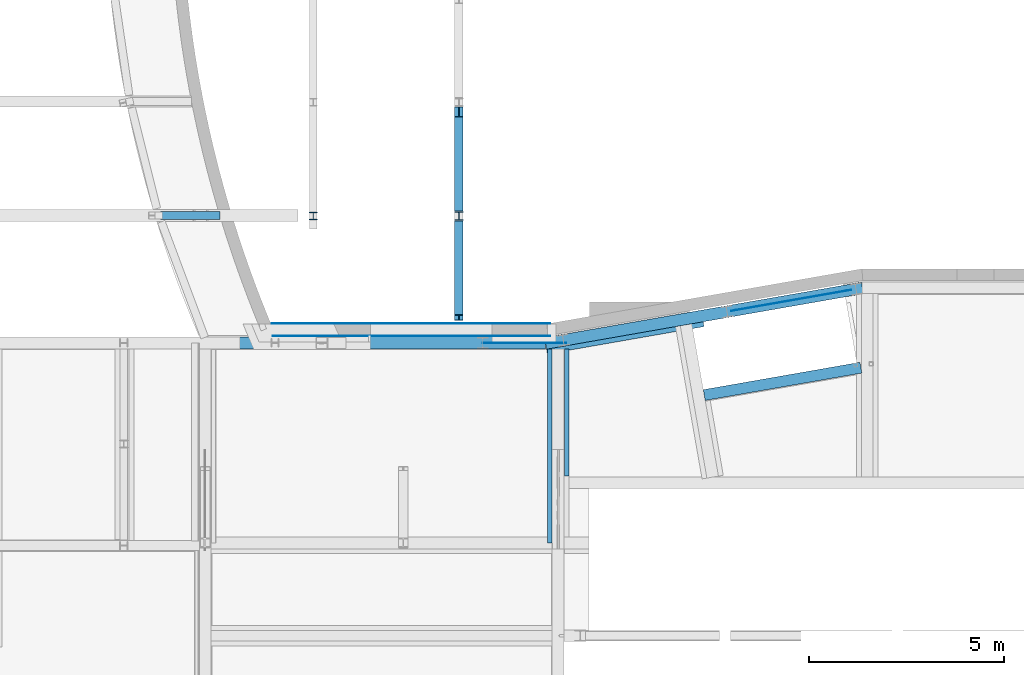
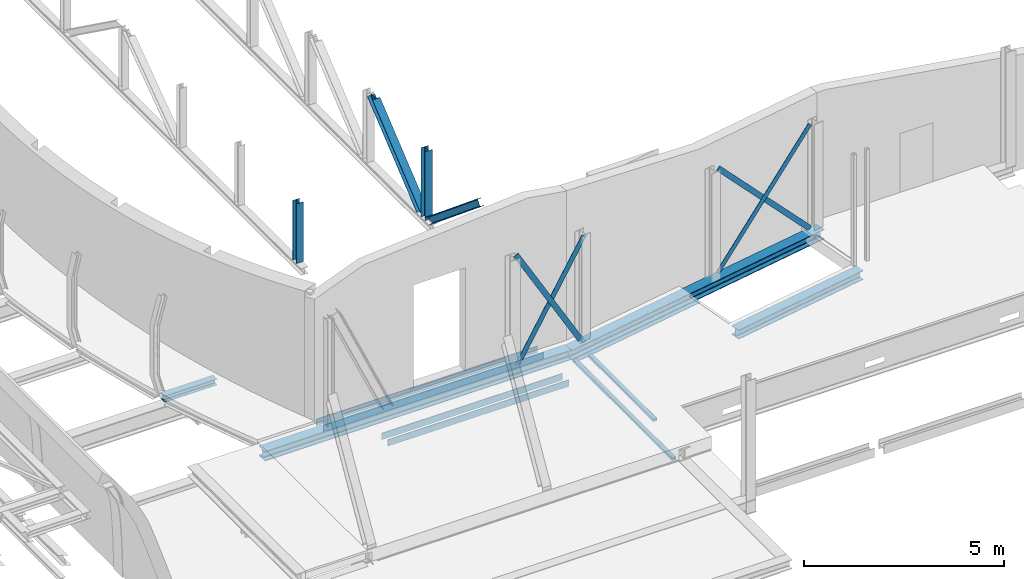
# One storey, part 19 of 38: 18 beams.
"""IFC2X3 building model written with IfcOpenShell, lengths in millimetres."""

from ifc_helpers import new_model, entity, si_unit, converted_unit, derived_unit, direction, frame, frame_2d, origin, place, context, subcontext, project, spatial, polyline, circle_curve, parameter, trimmed, segment, composite_curve, rectangle, i_section, outline, extrude, clip, halfspace, source, transform, mapped, material, material_list, type_object, type_shapes, element, save


model = new_model("IFC2X3")

# Units and contexts
model_context = context("Model", 3, precision=0.01, world=origin(), true_north=direction((6.12303176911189e-17, 1.0)))
body_context = subcontext(model_context, "Body", "Model", "MODEL_VIEW")
ifc_project = project(units=[si_unit("LENGTHUNIT", "METRE", prefix="MILLI"), si_unit("AREAUNIT", "SQUARE_METRE", prefix="MILLI"), si_unit("VOLUMEUNIT", "CUBIC_METRE"), converted_unit("PLANEANGLEUNIT", "DEGREE", entity("IfcRatioMeasure", 0.0174532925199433), si_unit("PLANEANGLEUNIT", "RADIAN"), dimensions=[0, 0, 0, 0, 0, 0, 0]), si_unit("MASSUNIT", "GRAM", prefix="KILO"), derived_unit("MASSDENSITYUNIT", [(si_unit("MASSUNIT", "GRAM", prefix="KILO"), 1), (si_unit("LENGTHUNIT", "METRE"), -3)]), derived_unit("MOMENTOFINERTIAUNIT", [(si_unit("LENGTHUNIT", "METRE"), 4)]), si_unit("TIMEUNIT", "SECOND"), si_unit("FREQUENCYUNIT", "HERTZ"), si_unit("THERMODYNAMICTEMPERATUREUNIT", "DEGREE_CELSIUS"), derived_unit("THERMALTRANSMITTANCEUNIT", [(si_unit("MASSUNIT", "GRAM", prefix="KILO"), 1), (si_unit("THERMODYNAMICTEMPERATUREUNIT", "KELVIN"), -1), (si_unit("TIMEUNIT", "SECOND"), -3)]), derived_unit("VOLUMETRICFLOWRATEUNIT", [(si_unit("LENGTHUNIT", "METRE"), 3), (si_unit("TIMEUNIT", "SECOND"), -1)]), si_unit("ELECTRICCURRENTUNIT", "AMPERE"), si_unit("ELECTRICVOLTAGEUNIT", "VOLT"), si_unit("POWERUNIT", "WATT"), si_unit("FORCEUNIT", "NEWTON", prefix="KILO"), si_unit("ILLUMINANCEUNIT", "LUX"), si_unit("LUMINOUSFLUXUNIT", "LUMEN"), si_unit("LUMINOUSINTENSITYUNIT", "CANDELA"), derived_unit("USERDEFINED", [(si_unit("MASSUNIT", "GRAM", prefix="KILO"), -1), (si_unit("LENGTHUNIT", "METRE"), -2), (si_unit("TIMEUNIT", "SECOND"), 3), (si_unit("LUMINOUSFLUXUNIT", "LUMEN"), 1)]), derived_unit("LINEARVELOCITYUNIT", [(si_unit("LENGTHUNIT", "METRE"), 1), (si_unit("TIMEUNIT", "SECOND"), -1)]), si_unit("PRESSUREUNIT", "PASCAL"), derived_unit("USERDEFINED", [(si_unit("LENGTHUNIT", "METRE"), -2), (si_unit("MASSUNIT", "GRAM", prefix="KILO"), 1), (si_unit("TIMEUNIT", "SECOND"), -2)]), derived_unit("LINEARFORCEUNIT", [(si_unit("MASSUNIT", "GRAM", prefix="KILO"), 1), (si_unit("LENGTHUNIT", "METRE"), 1), (si_unit("TIMEUNIT", "SECOND"), -2), (si_unit("LENGTHUNIT", "METRE"), -1)]), derived_unit("PLANARFORCEUNIT", [(si_unit("MASSUNIT", "GRAM", prefix="KILO"), 1), (si_unit("LENGTHUNIT", "METRE"), 1), (si_unit("TIMEUNIT", "SECOND"), -2), (si_unit("LENGTHUNIT", "METRE"), -2)])], contexts=[model_context])

# Site, building, storey
site_placement = place(None, origin())
site = spatial("IfcSite", under=ifc_project, at=site_placement, Name="Theater aan de Parade", CompositionType="ELEMENT")
building_placement = place(site_placement, origin())
building = spatial("IfcBuilding", under=site, at=building_placement, Name="Theater aan de Parade", CompositionType="ELEMENT")
storey_placement = place(building_placement, frame((0.0, 0.0, 12480.0)))
storey = spatial("IfcBuildingStorey", under=building, at=storey_placement, Name="03 derde verdieping", CompositionType="ELEMENT", Elevation=12480.0)

# Beams
ifc_material_1 = material(Name="00_PBT_MAT_staal_S355")
beam_type_1 = type_object("IfcBeamType", Name="28_PBT_SF_staal_H-profiel:S355_HE220B", PredefinedType="NOTDEFINED")
beam_1_placement = place(storey_placement, frame((49335.0, 20780.0, 5090.0), z_axis=(0.0, 0.636264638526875, 0.771470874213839), x_axis=(0.0, 0.771470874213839, -0.636264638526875)))
element("IfcBeam", 1, at=beam_1_placement, inside=storey, type_object=beam_type_1, material=ifc_material_1, Name="28_PBT_SF_staal_H-profiel:S355_HE220B", ObjectType="28_PBT_SF_staal_H-profiel:S355_HE220B", context=body_context, shape_type="Clipping", body=[
    clip(clip(clip(extrude(outline(composite_curve([segment(polyline([(-110.0, -94.0), (-110.0, -110.0)]), True, "CONTINUOUS"), segment(polyline([(-110.0, -110.0), (110.0, -110.0)]), True, "CONTINUOUS"), segment(polyline([(110.0, -110.0), (110.0, -94.0)]), True, "CONTINUOUS"), segment(polyline([(110.0, -94.0), (22.7500000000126, -94.0)]), True, "CONTINUOUS"), segment(trimmed(circle_curve(frame_2d((22.7500000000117, -76.0), x_axis=(-1.0, 0.0)), 17.999999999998), [parameter(0.0)], [parameter(90.0000000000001)], True, "PARAMETER"), False, "CONTINUOUS"), segment(polyline([(4.75000000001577, -76.0), (4.75000000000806, 76.0)]), True, "CONTINUOUS"), segment(trimmed(circle_curve(frame_2d((22.750000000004, 76.0), x_axis=(0.0, 1.0)), 17.9999999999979), [parameter(0.0)], [parameter(90.0000000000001)], True, "PARAMETER"), False, "CONTINUOUS"), segment(polyline([(22.7500000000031, 94.0), (110.0, 94.0)]), True, "CONTINUOUS"), segment(polyline([(110.0, 94.0), (110.0, 110.0)]), True, "CONTINUOUS"), segment(polyline([(110.0, 110.0), (-110.0, 110.0)]), True, "CONTINUOUS"), segment(polyline([(-110.0, 110.0), (-110.0, 94.0)]), True, "CONTINUOUS"), segment(polyline([(-110.0, 94.0), (-22.7499999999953, 94.0)]), True, "CONTINUOUS"), segment(trimmed(circle_curve(frame_2d((-22.7499999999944, 76.0), x_axis=(1.0, 0.0)), 17.9999999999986), [parameter(0.0)], [parameter(90.0000000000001)], True, "PARAMETER"), False, "CONTINUOUS"), segment(polyline([(-4.74999999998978, 76.0), (-4.74999999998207, -76.0)]), True, "CONTINUOUS"), segment(trimmed(circle_curve(frame_2d((-22.7499999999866, -76.0), x_axis=(0.0, -1.0)), 17.9999999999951), [parameter(0.0)], [parameter(90.0000000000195)], True, "PARAMETER"), False, "CONTINUOUS"), segment(polyline([(-22.7499999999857, -94.0), (-110.0, -94.0)]), True, "CONTINUOUS")], self_intersect=False)), frame((397.542691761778, 0.0, 0.0), z_axis=(-1.0, 0.0, 0.0), x_axis=(0.0, 1.0, 0.0)), (0.0, 0.0, -1.0), 3195.32442237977), halfspace(frame((3424.42763274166, -130.0, -118.161026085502), z_axis=(0.636264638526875, 0.0, -0.771470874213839), x_axis=(0.771470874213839, 0.0, 0.636264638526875)), False)), halfspace(frame((3610.23713877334, -130.0, -0.303021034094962), z_axis=(0.771470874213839, 0.0, 0.636264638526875), x_axis=(-0.636264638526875, 0.0, 0.771470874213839)), False)), halfspace(frame((108.895897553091, 170.0, -143.509489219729), z_axis=(-0.636264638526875, 0.0, 0.771470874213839), x_axis=(0.771470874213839, 0.0, 0.636264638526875)), False)),
])
beam_type_2 = type_object("IfcBeamType", Name="28_PBT_SF_staal_H-profiel (void):S355_HE300B", PredefinedType="NOTDEFINED")
beam_2_placement = place(storey_placement, frame((42694.9091634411, 20445.0, 0.0)))
element("IfcBeam", 2, at=beam_2_placement, inside=storey, type_object=beam_type_2, material=ifc_material_1, Name="28_PBT_SF_staal_H-profiel (void):S355_HE300B", ObjectType="28_PBT_SF_staal_H-profiel (void):S355_HE300B", context=body_context, shape_type="SweptSolid", body=[
    extrude(outline(composite_curve([segment(polyline([(131.0, -150.0), (150.0, -150.0)]), True, "CONTINUOUS"), segment(polyline([(150.0, -150.0), (150.0, 150.0)]), True, "CONTINUOUS"), segment(polyline([(150.0, 150.0), (131.0, 150.0)]), True, "CONTINUOUS"), segment(polyline([(131.0, 150.0), (131.0, 32.5000000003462)]), True, "CONTINUOUS"), segment(trimmed(circle_curve(frame_2d((104.0, 32.5000000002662), x_axis=(1.0, 0.0)), 26.9999999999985), [parameter(269.999999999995)], [parameter(0.0)], True, "PARAMETER"), False, "CONTINUOUS"), segment(polyline([(104.0, 5.50000000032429), (-104.0, 5.49999999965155)]), True, "CONTINUOUS"), segment(trimmed(circle_curve(frame_2d((-104.0, 32.4999999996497), x_axis=(0.0, -1.0)), 26.9999999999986), [parameter(269.999999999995)], [parameter(0.0)], True, "PARAMETER"), False, "CONTINUOUS"), segment(polyline([(-131.0, 32.4999999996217), (-131.0, 150.0)]), True, "CONTINUOUS"), segment(polyline([(-131.0, 150.0), (-150.0, 150.0)]), True, "CONTINUOUS"), segment(polyline([(-150.0, 150.0), (-150.0, -150.0)]), True, "CONTINUOUS"), segment(polyline([(-150.0, -150.0), (-131.0, -150.0)]), True, "CONTINUOUS"), segment(polyline([(-131.0, -150.0), (-131.0, -32.5000000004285)]), True, "CONTINUOUS"), segment(trimmed(circle_curve(frame_2d((-104.0, -32.5000000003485), x_axis=(-1.0, 0.0)), 26.9999999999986), [parameter(269.999999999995)], [parameter(0.0)], True, "PARAMETER"), False, "CONTINUOUS"), segment(polyline([(-104.0, -5.50000000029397), (104.0, -5.49999999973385)]), True, "CONTINUOUS"), segment(trimmed(circle_curve(frame_2d((104.0, -32.499999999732), x_axis=(0.0, 1.0)), 26.9999999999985), [parameter(269.999999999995)], [parameter(0.0)], True, "PARAMETER"), False, "CONTINUOUS"), segment(polyline([(131.0, -32.4999999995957), (131.0, -150.0)]), True, "CONTINUOUS")], self_intersect=False)), frame((0.0, 0.0, -110.0), z_axis=(1.0, 0.0, 0.0), x_axis=(0.0, 0.0, -1.0)), (0.0, 0.0, 1.0), 8849.55984125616),
])
ifc_material_2 = material(Name="00_PBT_MAT_Lucht")
ifc_material_list = material_list([ifc_material_2, ifc_material_1])
beam_type_3 = type_object("IfcBeamType", Name="28_PBT_SF_staal_H-profiel_met_ondergelaste_strip (void):S355_HE300B + ondergelaste strip", PredefinedType="BEAM", material=ifc_material_list)
shared_shape = source(origin(), body_context, "Body", "SweptSolid", [
    extrude(rectangle(XDim=15.0, YDim=420.0, at=frame_2d((-2.53130849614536e-14, 0.0), x_axis=(1.0, 0.0))), frame((-4112.59046725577, -65.0, -157.500000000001), z_axis=(1.0, 0.0, 0.0), x_axis=(0.0, 0.0, -1.0)), (0.0, 0.0, 1.0), 4066.18093451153),
    extrude(i_section(OverallWidth=300.0, OverallDepth=300.0, WebThickness=11.0, FlangeThickness=18.9999999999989, FilletRadius=27.0, at=frame_2d((-3.97903932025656e-13, -1.4210854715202e-14), x_axis=(0.0, 1.0))), frame((-4113.59046725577, 0.0, 0.0), z_axis=(1.0, 0.0, 0.0), x_axis=(0.0, 0.0, -1.0)), (0.0, 0.0, 1.0), 8227.18093451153),
])
type_shapes(beam_type_3, [shared_shape])
beam_3_placement = place(storey_placement, frame((55604.3861490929, 21141.1470188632, -115.0), z_axis=(0.0, 0.0, 1.0), x_axis=(0.985030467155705, 0.172380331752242, 0.0)))
element("IfcBeam", 3, at=beam_3_placement, inside=storey, type_object=beam_type_3, material=ifc_material_1, Name="28_PBT_SF_staal_H-profiel_met_ondergelaste_strip (void):S355_HE300B + ondergelaste strip", ObjectType="28_PBT_SF_staal_H-profiel_met_ondergelaste_strip (void):S355_HE300B + ondergelaste strip", context=body_context, shape_type="MappedRepresentation", body=[
    mapped(shared_shape, transform((0.0, 0.0, 0.0), scale=1.0)),
])
beam_type_4 = type_object("IfcBeamType", Name="28_PBT_SF_staal_H-profiel (void):S355_HE280B", PredefinedType="NOTDEFINED")
beam_4_placement = place(storey_placement, frame((55611.5357676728, 19110.3022667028, 0.0), z_axis=(0.0, 0.0, 1.0), x_axis=(0.985030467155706, 0.172380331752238, 0.0)))
element("IfcBeam", 4, at=beam_4_placement, inside=storey, type_object=beam_type_4, material=ifc_material_1, Name="28_PBT_SF_staal_H-profiel (void):S355_HE280B", ObjectType="28_PBT_SF_staal_H-profiel (void):S355_HE280B", context=body_context, shape_type="SweptSolid", body=[
    extrude(outline(composite_curve([segment(polyline([(122.0, -140.0), (140.0, -140.0)]), True, "CONTINUOUS"), segment(polyline([(140.0, -140.0), (140.0, 140.0)]), True, "CONTINUOUS"), segment(polyline([(140.0, 140.0), (122.0, 140.0)]), True, "CONTINUOUS"), segment(polyline([(122.0, 140.0), (122.0, 29.2499999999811)]), True, "CONTINUOUS"), segment(trimmed(circle_curve(frame_2d((98.0, 29.2499999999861), x_axis=(1.0, 0.0)), 24.0000000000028), [parameter(270.00000000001)], [parameter(0.0)], True, "PARAMETER"), False, "CONTINUOUS"), segment(polyline([(98.0, 5.24999999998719), (-98.0, 5.25000000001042)]), True, "CONTINUOUS"), segment(trimmed(circle_curve(frame_2d((-98.0, 29.2500000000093), x_axis=(0.0, -1.0)), 24.000000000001), [parameter(270.000000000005)], [parameter(0.0)], True, "PARAMETER"), False, "CONTINUOUS"), segment(polyline([(-122.0, 29.25000000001), (-122.0, 140.0)]), True, "CONTINUOUS"), segment(polyline([(-122.0, 140.0), (-140.0, 140.0)]), True, "CONTINUOUS"), segment(polyline([(-140.0, 140.0), (-140.0, -140.0)]), True, "CONTINUOUS"), segment(polyline([(-140.0, -140.0), (-122.0, -140.0)]), True, "CONTINUOUS"), segment(polyline([(-122.0, -140.0), (-122.0, -29.2499999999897)]), True, "CONTINUOUS"), segment(trimmed(circle_curve(frame_2d((-98.0, -29.2499999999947), x_axis=(-1.0, 0.0)), 23.9999999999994), [parameter(270.000000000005)], [parameter(0.0)], True, "PARAMETER"), False, "CONTINUOUS"), segment(polyline([(-98.0, -5.24999999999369), (98.0, -5.25000000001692)]), True, "CONTINUOUS"), segment(trimmed(circle_curve(frame_2d((98.0, -29.2500000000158), x_axis=(0.0, 1.0)), 23.9999999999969), [parameter(269.99999999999)], [parameter(0.0)], True, "PARAMETER"), False, "CONTINUOUS"), segment(polyline([(122.0, -29.2500000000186), (122.0, -140.0)]), True, "CONTINUOUS")], self_intersect=False)), frame((0.0, 0.0, -120.0), z_axis=(1.0, 0.0, 0.0), x_axis=(0.0, 0.0, -1.0)), (0.0, 0.0, 1.0), 4067.57909931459),
])
beam_type_5 = type_object("IfcBeamType", Name="28_PBT_SF_staal_H-profiel:S355_HE220A", PredefinedType="NOTDEFINED")
beam_5_placement = place(storey_placement, frame((49335.0, 23690.0, 2690.0), z_axis=(0.0, -0.636264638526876, 0.771470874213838), x_axis=(0.0, 0.771470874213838, 0.636264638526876)))
element("IfcBeam", 5, at=beam_5_placement, inside=storey, type_object=beam_type_5, material=ifc_material_1, Name="28_PBT_SF_staal_H-profiel:S355_HE220A", ObjectType="28_PBT_SF_staal_H-profiel:S355_HE220A", context=body_context, shape_type="Clipping", body=[
    clip(clip(clip(clip(extrude(outline(composite_curve([segment(polyline([(94.0, -110.0), (105.0, -110.0)]), True, "CONTINUOUS"), segment(polyline([(105.0, -110.0), (105.0, 110.0)]), True, "CONTINUOUS"), segment(polyline([(105.0, 110.0), (94.0, 110.0)]), True, "CONTINUOUS"), segment(polyline([(94.0, 110.0), (94.0, 21.4999999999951)]), True, "CONTINUOUS"), segment(trimmed(circle_curve(frame_2d((76.0, 21.4999999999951), x_axis=(1.0, 0.0)), 17.9999999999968), [parameter(269.999999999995)], [parameter(0.0)], True, "PARAMETER"), False, "CONTINUOUS"), segment(polyline([(76.0, 3.49999999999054), (-76.0, 3.49999999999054)]), True, "CONTINUOUS"), segment(trimmed(circle_curve(frame_2d((-76.0, 21.4999999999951), x_axis=(0.0, -1.0)), 17.9999999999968), [parameter(269.999999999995)], [parameter(0.0)], True, "PARAMETER"), False, "CONTINUOUS"), segment(polyline([(-94.0, 21.4999999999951), (-94.0, 110.0)]), True, "CONTINUOUS"), segment(polyline([(-94.0, 110.0), (-105.0, 110.0)]), True, "CONTINUOUS"), segment(polyline([(-105.0, 110.0), (-105.0, -110.0)]), True, "CONTINUOUS"), segment(polyline([(-105.0, -110.0), (-94.0, -110.0)]), True, "CONTINUOUS"), segment(polyline([(-94.0, -110.0), (-94.0, -21.5000000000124)]), True, "CONTINUOUS"), segment(trimmed(circle_curve(frame_2d((-76.0, -21.5000000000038), x_axis=(-1.0, 0.0)), 17.9999999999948), [parameter(269.999999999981)], [parameter(0.0)], True, "PARAMETER"), False, "CONTINUOUS"), segment(polyline([(-76.0, -3.50000000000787), (76.0, -3.50000000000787)]), True, "CONTINUOUS"), segment(trimmed(circle_curve(frame_2d((76.0, -21.5000000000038), x_axis=(0.0, 1.0)), 17.9999999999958), [parameter(269.999999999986)], [parameter(0.0)], True, "PARAMETER"), False, "CONTINUOUS"), segment(polyline([(94.0, -21.5000000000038), (94.0, -110.0)]), True, "CONTINUOUS")], self_intersect=False)), frame((179.148262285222, 0.0, 0.0), z_axis=(1.0, 0.0, 0.0), x_axis=(0.0, 0.0, -1.0)), (0.0, 0.0, 1.0), 3381.90561992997), halfspace(frame((-182.158937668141, -130.0, 318.743453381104), z_axis=(-0.636264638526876, 0.0, -0.771470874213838), x_axis=(0.771470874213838, 0.0, -0.636264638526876)), False)), halfspace(frame((161.778237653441, 130.0, -0.303021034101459), z_axis=(-0.771470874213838, 0.0, 0.636264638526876), x_axis=(0.636264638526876, 0.0, 0.771470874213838)), False)), halfspace(frame((2213.89076306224, -130.0, -1692.76695951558), z_axis=(0.771470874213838, 0.0, -0.636264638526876), x_axis=(0.636264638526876, 0.0, 0.771470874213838)), False)), halfspace(frame((-838.104483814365, 170.0, 3568.84017072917), z_axis=(0.636264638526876, 0.0, 0.771470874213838), x_axis=(0.771470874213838, 0.0, -0.636264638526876)), False)),
])
beam_6_placement = place(storey_placement, frame((49335.0, 23690.0, 2690.0), z_axis=(1.0, 0.0, 0.0), x_axis=(0.0, 0.0, 1.0)))
element("IfcBeam", 6, at=beam_6_placement, inside=storey, type_object=beam_type_5, material=ifc_material_1, Name="28_PBT_SF_staal_H-profiel:S355_HE220A", ObjectType="28_PBT_SF_staal_H-profiel:S355_HE220A", context=body_context, shape_type="SweptSolid", body=[
    extrude(i_section(OverallWidth=220.000000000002, OverallDepth=210.000000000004, WebThickness=6.99999999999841, FlangeThickness=10.9999999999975, FilletRadius=17.9999999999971, at=frame_2d((0.0, -4.33431068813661e-12), x_axis=(1.0, 0.0))), frame((122.700000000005, 0.0, 0.0), z_axis=(1.0, 0.0, 0.0), x_axis=(0.0, 0.0, -1.0)), (0.0, 0.0, 1.0), 2104.59999999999),
])
ifc_material_3 = material(Name="00_PBT_MAT_staal_S235")
beam_type_6 = type_object("IfcBeamType", Name="28_PBT_SF_staal_koker:S235_K80x120x6.3", PredefinedType="NOTDEFINED")
beam_7_placement = place(storey_placement, frame((51596.3051596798, 20295.0, 0.0), z_axis=(0.0, 0.0, 1.0), x_axis=(0.0, -1.0, 0.0)))
element("IfcBeam", 7, at=beam_7_placement, inside=storey, type_object=beam_type_6, material=ifc_material_3, Name="28_PBT_SF_staal_koker:S235_K80x120x6.3", ObjectType="28_PBT_SF_staal_koker:S235_K80x120x6.3", context=body_context, shape_type="SweptSolid", body=[
    extrude(outline(composite_curve([segment(polyline([(-30.5499999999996, -60.0), (30.5499999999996, -60.0)]), True, "CONTINUOUS"), segment(trimmed(circle_curve(frame_2d((30.5499999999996, -50.5500000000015), x_axis=(0.0, 1.0)), 9.45), [parameter(180.0)], [parameter(270.0)], True, "PARAMETER"), True, "CONTINUOUS"), segment(polyline([(40.0, -50.5500000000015), (40.0, 50.5500000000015)]), True, "CONTINUOUS"), segment(trimmed(circle_curve(frame_2d((30.5499999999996, 50.5500000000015), x_axis=(0.0, 1.0)), 9.45), [parameter(270.0)], [parameter(360.0)], True, "PARAMETER"), True, "CONTINUOUS"), segment(polyline([(30.5499999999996, 60.0), (-30.5499999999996, 60.0)]), True, "CONTINUOUS"), segment(trimmed(circle_curve(frame_2d((-30.5499999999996, 50.5500000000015), x_axis=(0.0, 1.0)), 9.45), [parameter(0.0)], [parameter(90.0000000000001)], True, "PARAMETER"), True, "CONTINUOUS"), segment(polyline([(-40.0, 50.5500000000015), (-40.0, -50.5500000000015)]), True, "CONTINUOUS"), segment(trimmed(circle_curve(frame_2d((-30.5499999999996, -50.5500000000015), x_axis=(0.0, 1.0)), 9.45), [parameter(90.0)], [parameter(180.0)], True, "PARAMETER"), True, "CONTINUOUS")], self_intersect=False), holes=[composite_curve([segment(polyline([(33.6999999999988, 47.3999999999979), (33.6999999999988, -47.3999999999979)]), True, "CONTINUOUS"), segment(trimmed(circle_curve(frame_2d((27.4000000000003, -47.3999999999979), x_axis=(0.0, 1.0)), 6.3), [parameter(180.0)], [parameter(270.0)], True, "PARAMETER"), False, "CONTINUOUS"), segment(polyline([(27.4000000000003, -53.6999999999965), (-27.4000000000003, -53.6999999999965)]), True, "CONTINUOUS"), segment(trimmed(circle_curve(frame_2d((-27.4000000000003, -47.3999999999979), x_axis=(0.0, 1.0)), 6.3), [parameter(90.0)], [parameter(180.0)], True, "PARAMETER"), False, "CONTINUOUS"), segment(polyline([(-33.700000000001, -47.3999999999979), (-33.700000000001, 47.3999999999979)]), True, "CONTINUOUS"), segment(trimmed(circle_curve(frame_2d((-27.4000000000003, 47.3999999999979), x_axis=(0.0, 1.0)), 6.3), [parameter(4.07110999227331e-13)], [parameter(90.0000000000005)], True, "PARAMETER"), False, "CONTINUOUS"), segment(polyline([(-27.4000000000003, 53.6999999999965), (27.4000000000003, 53.6999999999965)]), True, "CONTINUOUS"), segment(trimmed(circle_curve(frame_2d((27.4000000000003, 47.3999999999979), x_axis=(0.0, 1.0)), 6.3), [parameter(270.0)], [parameter(360.0)], True, "PARAMETER"), False, "CONTINUOUS")], self_intersect=False)]), frame((0.0, 60.0, -305.0), z_axis=(1.0, 0.0, 0.0), x_axis=(0.0, 0.0, 1.0)), (0.0, 0.0, 1.0), 4965.51588929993),
])
beam_8_placement = place(storey_placement, frame((52154.3051596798, 20295.0, 0.0), z_axis=(0.0, 0.0, 1.0), x_axis=(0.0, -1.0, 0.0)))
element("IfcBeam", 8, at=beam_8_placement, inside=storey, type_object=beam_type_6, material=ifc_material_3, Name="28_PBT_SF_staal_koker:S235_K80x120x6.3", ObjectType="28_PBT_SF_staal_koker:S235_K80x120x6.3", context=body_context, shape_type="SweptSolid", body=[
    extrude(outline(composite_curve([segment(trimmed(circle_curve(frame_2d((-50.5500000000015, -30.5499999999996), x_axis=(1.0, 0.0)), 9.45), [parameter(180.0)], [parameter(270.0)], True, "PARAMETER"), True, "CONTINUOUS"), segment(polyline([(-50.5500000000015, -40.0), (50.5500000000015, -40.0)]), True, "CONTINUOUS"), segment(trimmed(circle_curve(frame_2d((50.5500000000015, -30.5499999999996), x_axis=(1.0, 0.0)), 9.45), [parameter(270.0)], [parameter(0.0)], True, "PARAMETER"), True, "CONTINUOUS"), segment(polyline([(60.0, -30.5499999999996), (60.0, 30.5499999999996)]), True, "CONTINUOUS"), segment(trimmed(circle_curve(frame_2d((50.5500000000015, 30.5499999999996), x_axis=(1.0, 0.0)), 9.45), [parameter(3.56222124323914e-13)], [parameter(90.0000000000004)], True, "PARAMETER"), True, "CONTINUOUS"), segment(polyline([(50.5500000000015, 40.0), (-50.5500000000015, 40.0)]), True, "CONTINUOUS"), segment(trimmed(circle_curve(frame_2d((-50.5500000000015, 30.5499999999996), x_axis=(1.0, 0.0)), 9.45), [parameter(90.0000000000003)], [parameter(180.0)], True, "PARAMETER"), True, "CONTINUOUS"), segment(polyline([(-60.0, 30.5499999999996), (-60.0, -30.5499999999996)]), True, "CONTINUOUS")], self_intersect=False), holes=[composite_curve([segment(trimmed(circle_curve(frame_2d((47.3999999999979, 27.4000000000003), x_axis=(1.0, 0.0)), 6.3), [parameter(5.08888749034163e-14)], [parameter(90.0000000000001)], True, "PARAMETER"), False, "CONTINUOUS"), segment(polyline([(53.6999999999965, 27.4000000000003), (53.6999999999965, -27.4000000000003)]), True, "CONTINUOUS"), segment(trimmed(circle_curve(frame_2d((47.3999999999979, -27.4000000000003), x_axis=(1.0, 0.0)), 6.3), [parameter(269.999999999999)], [parameter(360.0)], True, "PARAMETER"), False, "CONTINUOUS"), segment(polyline([(47.3999999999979, -33.700000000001), (-47.3999999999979, -33.700000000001)]), True, "CONTINUOUS"), segment(trimmed(circle_curve(frame_2d((-47.3999999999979, -27.4000000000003), x_axis=(1.0, 0.0)), 6.3), [parameter(180.0)], [parameter(270.0)], True, "PARAMETER"), False, "CONTINUOUS"), segment(polyline([(-53.6999999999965, -27.4000000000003), (-53.6999999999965, 27.4000000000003)]), True, "CONTINUOUS"), segment(trimmed(circle_curve(frame_2d((-47.3999999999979, 27.4000000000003), x_axis=(1.0, 0.0)), 6.3), [parameter(89.9999999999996)], [parameter(180.0)], True, "PARAMETER"), False, "CONTINUOUS"), segment(polyline([(-47.3999999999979, 33.6999999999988), (47.3999999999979, 33.6999999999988)]), True, "CONTINUOUS")], self_intersect=False)]), frame((0.0, -60.0, -305.0), z_axis=(1.0, 0.0, 0.0), x_axis=(0.0, 1.0, 0.0)), (0.0, 0.0, 1.0), 3260.0),
])
beam_type_7 = type_object("IfcBeamType", Name="28_PBT_SF_staal_H-profiel:S355_HE200A", PredefinedType="NOTDEFINED")
beam_9_placement = place(storey_placement, frame((45610.0, 23690.0, 2680.0), z_axis=(1.0, 0.0, 0.0), x_axis=(0.0, 0.0, 1.0)))
element("IfcBeam", 9, at=beam_9_placement, inside=storey, type_object=beam_type_7, material=ifc_material_1, Name="28_PBT_SF_staal_H-profiel:S355_HE200A", ObjectType="28_PBT_SF_staal_H-profiel:S355_HE200A", context=body_context, shape_type="SweptSolid", body=[
    extrude(i_section(OverallWidth=199.999999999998, OverallDepth=190.0, WebThickness=6.49999999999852, FlangeThickness=9.99999999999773, FilletRadius=17.9999999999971, at=frame_2d((4.33431068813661e-12, -4.33431068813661e-12), x_axis=(1.0, 0.0))), frame((112.700000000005, 0.0, 0.0), z_axis=(1.0, 0.0, 0.0), x_axis=(0.0, 0.0, -1.0)), (0.0, 0.0, 1.0), 1824.59999999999),
])
beam_10_placement = place(storey_placement, frame((41704.9429543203, 23705.0, 0.0)))
element("IfcBeam", 10, at=beam_10_placement, inside=storey, type_object=beam_type_7, material=ifc_material_1, Name="28_PBT_SF_staal_H-profiel:S355_HE200A", ObjectType="28_PBT_SF_staal_H-profiel:S355_HE200A", context=body_context, shape_type="SweptSolid", body=[
    extrude(i_section(OverallWidth=200.000000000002, OverallDepth=190.0, WebThickness=6.50000000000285, FlangeThickness=9.99999999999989, FilletRadius=18.0000000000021, at=frame_2d((-2.16715534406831e-12, 2.16715534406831e-12), x_axis=(0.0, 1.0))), frame((0.0, 0.0, -25.0), z_axis=(1.0, 0.0, 0.0), x_axis=(0.0, 0.0, -1.0)), (0.0, 0.0, 1.0), 1520.0),
])
ifc_material_4 = material(Name="00_PBT_MAT_staal")
beam_type_8 = type_object("IfcBeamType", Name="28_PBT_SF_staal_strip:strip 10x150", PredefinedType="NOTDEFINED")
beam_11_placement = place(storey_placement, frame((56188.3283370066, 21243.3369017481, -45.2854739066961), z_axis=(0.736584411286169, -0.108680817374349, -0.667556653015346), x_axis=(0.676345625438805, 0.118360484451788, 0.727012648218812)))
element("IfcBeam", 11, at=beam_11_placement, inside=storey, type_object=beam_type_8, material=ifc_material_4, Name="28_PBT_SF_staal_strip:strip 10x150", ObjectType="28_PBT_SF_staal_strip:strip 10x150", context=body_context, shape_type="SweptSolid", body=[
    extrude(rectangle(XDim=149.999999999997, YDim=10.0000000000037, at=frame_2d((0.0, 7.46069872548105e-13), x_axis=(0.0, 1.0))), frame((251.968080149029, 0.0, 0.0), z_axis=(1.0, 0.0, 0.0), x_axis=(0.0, -0.972230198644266, -0.234026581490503)), (0.0, 0.0, 1.0), 4381.20052999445),
])
beam_12_placement = place(storey_placement, frame((59486.2707278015, 21820.4768201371, -44.7004897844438), z_axis=(0.737508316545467, -0.108221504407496, 0.666610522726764), x_axis=(-0.675338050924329, -0.118184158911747, 0.727977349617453)))
element("IfcBeam", 12, at=beam_12_placement, inside=storey, type_object=beam_type_8, material=ifc_material_4, Name="28_PBT_SF_staal_strip:strip 10x150", ObjectType="28_PBT_SF_staal_strip:strip 10x150", context=body_context, shape_type="SweptSolid", body=[
    extrude(rectangle(XDim=150.000000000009, YDim=9.99999999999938, at=frame_2d((-6.08224581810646e-12, 7.46513961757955e-13), x_axis=(1.0, 0.0))), frame((251.968080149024, 0.0, 0.0), z_axis=(1.0, 0.0, 0.0), x_axis=(0.0, -0.233733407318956, 0.972300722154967)), (0.0, 0.0, 1.0), 4373.92558360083),
])
beam_13_placement = place(storey_placement, frame((49940.2492431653, 20445.0, -236.353233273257), z_axis=(0.862737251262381, 0.0, -0.505652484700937), x_axis=(0.505652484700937, 0.0, 0.862737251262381)))
element("IfcBeam", 13, at=beam_13_placement, inside=storey, type_object=beam_type_8, material=ifc_material_4, Name="28_PBT_SF_staal_strip:strip 10x150", ObjectType="28_PBT_SF_staal_strip:strip 10x150", context=body_context, shape_type="SweptSolid", body=[
    extrude(rectangle(XDim=149.999999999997, YDim=10.0000000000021, at=frame_2d((-5.47117906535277e-13, 2.16582307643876e-12), x_axis=(1.0, 0.0))), frame((147.581027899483, 0.0, 0.0), z_axis=(1.0, 0.0, 0.0), x_axis=(0.0, 0.0, -1.0)), (0.0, 0.0, 1.0), 3947.3328329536),
])
beam_14_placement = place(storey_placement, frame((49965.9972259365, 20445.0, 3516.26251247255), z_axis=(0.866232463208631, 0.0, 0.499641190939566), x_axis=(0.499641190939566, 0.0, -0.866232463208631)))
element("IfcBeam", 14, at=beam_14_placement, inside=storey, type_object=beam_type_8, material=ifc_material_4, Name="28_PBT_SF_staal_strip:strip 10x150", ObjectType="28_PBT_SF_staal_strip:strip 10x150", context=body_context, shape_type="SweptSolid", body=[
    extrude(rectangle(XDim=150.000000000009, YDim=9.99999999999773, at=frame_2d((5.40012479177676e-13, 0.0), x_axis=(1.0, 0.0))), frame((147.581027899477, 0.0, 0.0), z_axis=(1.0, 0.0, 0.0), x_axis=(0.0, 0.0, -1.0)), (0.0, 0.0, 1.0), 3902.19871328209),
])
beam_type_9 = type_object("IfcBeamType", Name="28_PBT_SF_staal_strip:trekstrip 20x200", PredefinedType="NOTDEFINED")
beam_15_placement = place(storey_placement, frame((46439.0610079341, 20630.0, 0.0)))
element("IfcBeam", 15, at=beam_15_placement, inside=storey, type_object=beam_type_9, material=ifc_material_4, Name="28_PBT_SF_staal_strip:trekstrip 20x200", ObjectType="28_PBT_SF_staal_strip:trekstrip 20x200", context=body_context, shape_type="SweptSolid", body=[
    extrude(rectangle(XDim=199.999999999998, YDim=19.9999999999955, at=frame_2d((1.08713038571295e-12, 2.16626716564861e-12), x_axis=(1.0, 0.0))), frame((0.0, -10.0, -1200.0), z_axis=(1.0, 0.0, 0.0), x_axis=(0.0, 0.0, -1.0)), (0.0, 0.0, 1.0), 5230.93899206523),
])
beam_16_placement = place(storey_placement, frame((44570.0, 20630.0, 0.0)))
element("IfcBeam", 16, at=beam_16_placement, inside=storey, type_object=beam_type_9, material=ifc_material_4, Name="28_PBT_SF_staal_strip:trekstrip 20x200", ObjectType="28_PBT_SF_staal_strip:trekstrip 20x200", context=body_context, shape_type="SweptSolid", body=[
    extrude(rectangle(XDim=199.999999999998, YDim=19.9999999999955, at=frame_2d((1.08713038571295e-12, 2.16626716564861e-12), x_axis=(1.0, 0.0))), frame((0.0, -10.0, -110.0), z_axis=(1.0, 0.0, 0.0), x_axis=(0.0, 0.0, -1.0)), (0.0, 0.0, 1.0), 6380.0),
])
beam_17_placement = place(storey_placement, frame((46439.0610079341, 20930.0, 0.0)))
element("IfcBeam", 17, at=beam_17_placement, inside=storey, type_object=beam_type_9, material=ifc_material_4, Name="28_PBT_SF_staal_strip:trekstrip 20x200", ObjectType="28_PBT_SF_staal_strip:trekstrip 20x200", context=body_context, shape_type="SweptSolid", body=[
    extrude(rectangle(XDim=200.0, YDim=19.9999999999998, at=frame_2d((1.08713038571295e-12, -2.10075512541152e-10), x_axis=(1.0, 0.0))), frame((0.0, 10.0, -1200.0), z_axis=(1.0, 0.0, 0.0), x_axis=(0.0, 0.0, -1.0)), (0.0, 0.0, 1.0), 5230.93899206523),
])
beam_18_placement = place(storey_placement, frame((44550.0, 20930.0, 0.0)))
element("IfcBeam", 18, at=beam_18_placement, inside=storey, type_object=beam_type_9, material=ifc_material_4, Name="28_PBT_SF_staal_strip:trekstrip 20x200", ObjectType="28_PBT_SF_staal_strip:trekstrip 20x200", context=body_context, shape_type="SweptSolid", body=[
    extrude(rectangle(XDim=199.999999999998, YDim=20.0000000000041, at=frame_2d((1.08002495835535e-12, -2.51224818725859e-10), x_axis=(1.0, 0.0))), frame((0.0, 10.0, -110.0), z_axis=(1.0, 0.0, 0.0), x_axis=(0.0, 0.0, -1.0)), (0.0, 0.0, 1.0), 6400.0),
])

save(model, "model.ifc")
